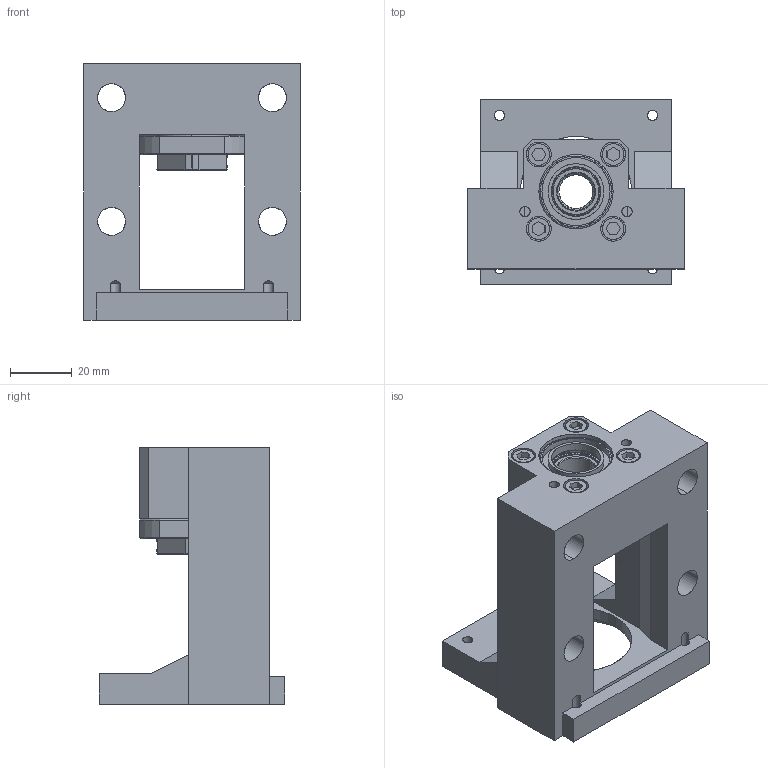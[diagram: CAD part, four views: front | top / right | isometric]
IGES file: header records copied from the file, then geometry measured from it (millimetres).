
Start section: SolidWorks IGES file using analytic representation for surfaces
Global section: file name: C:\Users\117\Desktop\1061208網站3D圖檔問題處理\傳動座\整合型\MBCE\MBCE12-DP.IGS,15HSolidWorks; native system: 2017; preprocessor: SolidWorks 2017; author: 117; date: 171228.152141; units: millimetre
Bounding box: 70 x 60 x 83 mm (x, y, z)
Surface area: 35695.4 mm2 (no closed solid volume)
Topology: 0 solids, 0 shells, 256 faces, 3434 edges, 3418 vertices
Faces by surface type: revolution 142, bspline 114
